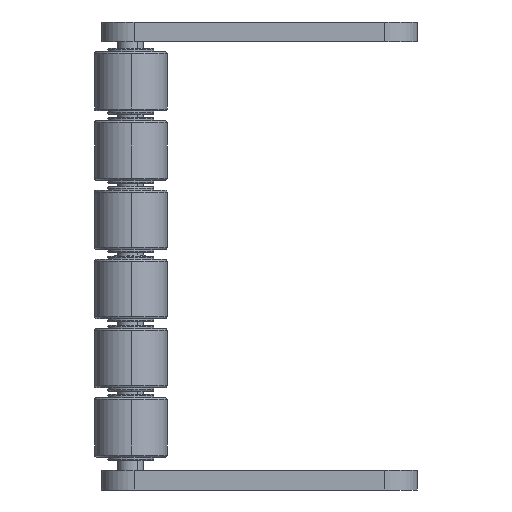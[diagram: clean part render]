
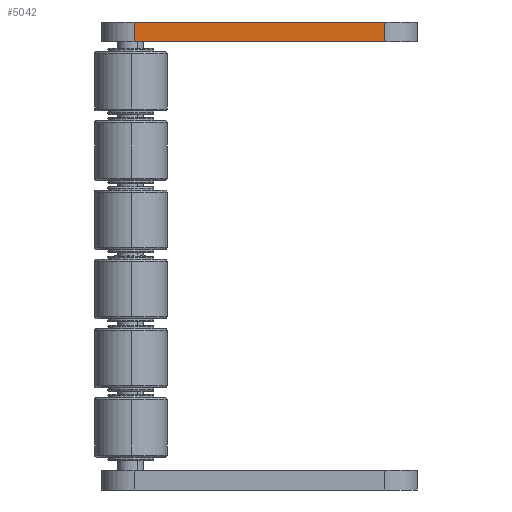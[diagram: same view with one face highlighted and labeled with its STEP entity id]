
A CAD part, left-side view. The second image highlights one B-rep face of the part: STEP entity #5042.
In plain terms, the highlighted planar face has unit normal (-1, 0, 0).
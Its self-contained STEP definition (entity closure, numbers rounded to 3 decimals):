
#153 = LINE ( 'NONE', #3484, #27329 ) ;
#3484 = CARTESIAN_POINT ( 'NONE',  ( 13.093, 112.629, 140.169 ) ) ;
#3652 = CARTESIAN_POINT ( 'NONE',  ( 13.093, 150.629, 140.169 ) ) ;
#3700 = VECTOR ( 'NONE', #35791, 1000. ) ;
#5042 = ADVANCED_FACE ( 'NONE', ( #16174 ), #37235, .F. ) ;
#5475 = CARTESIAN_POINT ( 'NONE',  ( 13.093, 150.629, 137.169 ) ) ;
#5553 = LINE ( 'NONE', #29928, #3700 ) ;
#6642 = DIRECTION ( 'NONE',  ( 1., 0., 0. ) ) ;
#7432 = LINE ( 'NONE', #30340, #34665 ) ;
#7721 = ORIENTED_EDGE ( 'NONE', *, *, #17693, .T. ) ;
#8340 = EDGE_LOOP ( 'NONE', ( #9666, #29545, #26765, #7721 ) ) ;
#9230 = CARTESIAN_POINT ( 'NONE',  ( 13.093, 150.629, 140.169 ) ) ;
#9666 = ORIENTED_EDGE ( 'NONE', *, *, #26345, .F. ) ;
#15102 = DIRECTION ( 'NONE',  ( 0., -1., 0. ) ) ;
#16174 = FACE_OUTER_BOUND ( 'NONE', #8340, .T. ) ;
#16949 = CARTESIAN_POINT ( 'NONE',  ( 13.093, 150.629, 140.169 ) ) ;
#17693 = EDGE_CURVE ( 'NONE', #25942, #27565, #7432, .T. ) ;
#19462 = EDGE_CURVE ( 'NONE', #25942, #27174, #5553, .T. ) ;
#22428 = CARTESIAN_POINT ( 'NONE',  ( 13.093, 112.629, 140.169 ) ) ;
#24730 = DIRECTION ( 'NONE',  ( 0., -1., 0. ) ) ;
#25076 = DIRECTION ( 'NONE',  ( 0., 0., -1. ) ) ;
#25288 = DIRECTION ( 'NONE',  ( 0., 0., -1. ) ) ;
#25942 = VERTEX_POINT ( 'NONE', #5475 ) ;
#26345 = EDGE_CURVE ( 'NONE', #37504, #27565, #153, .T. ) ;
#26765 = ORIENTED_EDGE ( 'NONE', *, *, #19462, .F. ) ;
#27174 = VERTEX_POINT ( 'NONE', #16949 ) ;
#27329 = VECTOR ( 'NONE', #25288, 1000. ) ;
#27565 = VERTEX_POINT ( 'NONE', #34356 ) ;
#27963 = EDGE_CURVE ( 'NONE', #27174, #37504, #28122, .T. ) ;
#28122 = LINE ( 'NONE', #9230, #32418 ) ;
#29545 = ORIENTED_EDGE ( 'NONE', *, *, #27963, .F. ) ;
#29928 = CARTESIAN_POINT ( 'NONE',  ( 13.093, 150.629, 140.169 ) ) ;
#30340 = CARTESIAN_POINT ( 'NONE',  ( 13.093, 150.629, 137.169 ) ) ;
#31120 = AXIS2_PLACEMENT_3D ( 'NONE', #3652, #6642, #25076 ) ;
#32418 = VECTOR ( 'NONE', #24730, 1000. ) ;
#34356 = CARTESIAN_POINT ( 'NONE',  ( 13.093, 112.629, 137.169 ) ) ;
#34665 = VECTOR ( 'NONE', #15102, 1000. ) ;
#35791 = DIRECTION ( 'NONE',  ( 0., 0., 1. ) ) ;
#37235 = PLANE ( 'NONE',  #31120 ) ;
#37504 = VERTEX_POINT ( 'NONE', #22428 ) ;
